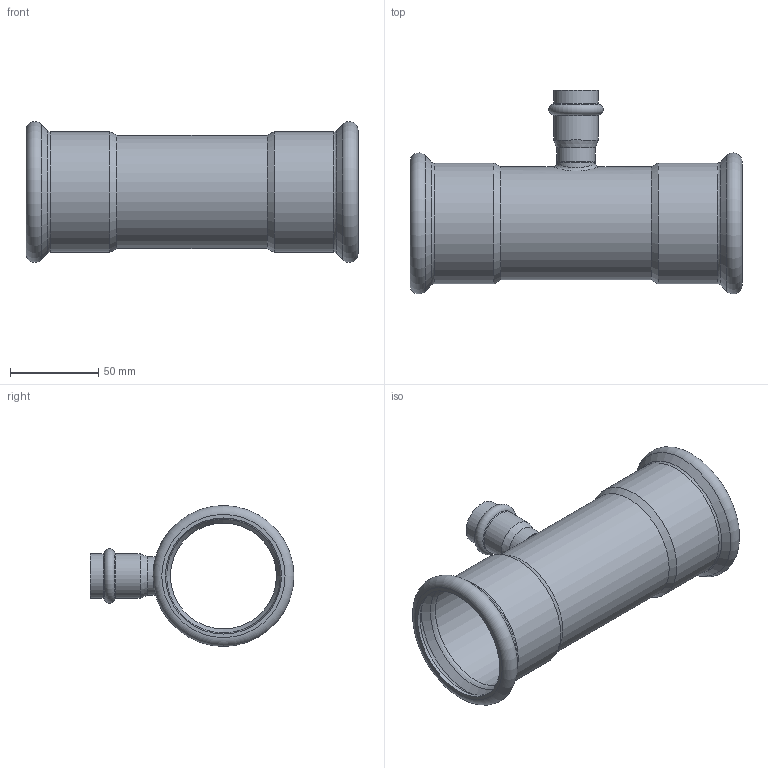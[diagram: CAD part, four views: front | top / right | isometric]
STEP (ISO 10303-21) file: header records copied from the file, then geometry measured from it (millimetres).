
FILE_DESCRIPTION((''),'2;1');
FILE_NAME('G:\Nirosan-Schmiedefeld\Technics\CAD\Bauteile VA\064\69130642264(1).stp','2009-05-08T09:14:26',('herberg'),(''),'Autodesk Inventor 2009','Autodesk Inventor 2009','');
FILE_SCHEMA(('AUTOMOTIVE_DESIGN { 1 0 10303 214 1 1 1 1 }'));
Length unit declared in the file: millimetre
Products named in the file (3): 69130642264(1); LM_69130642264(1); 6924322HM(1)
Assembly tree (2 placements, depth 2):
  69130642264(1)
    LM_69130642264(1)
    6924322HM(1)
Bounding box: 188 x 115.4 x 79.8 mm (x, y, z)
Volume: 87166.1 mm3; surface area: 89960.4 mm2
Topology: 2 solids, 2 shells, 51 faces, 103 edges, 58 vertices
Faces by surface type: cylinder 16, cone 12, bspline 9, plane 7, torus 7
Full cylindrical faces by diameter (mm): 18 x1, 19 x1, 22 x2, 22.15 x2, 25.15 x2, 60 x1, 64 x1, 64.4 x2, 65.7 x2, 68.4 x2
Entity records: 2650 total; most frequent: CARTESIAN_POINT 1721, DIRECTION 192, ORIENTED_EDGE 108, EDGE_LOOP 102, AXIS2_PLACEMENT_3D 96, EDGE_CURVE 54, VERTEX_POINT 52, FACE_OUTER_BOUND 51
